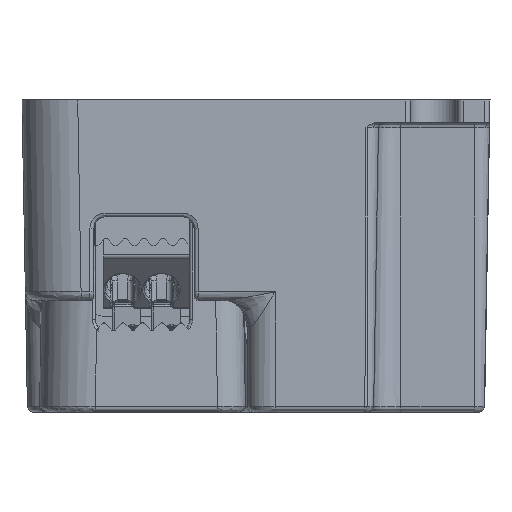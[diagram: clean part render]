
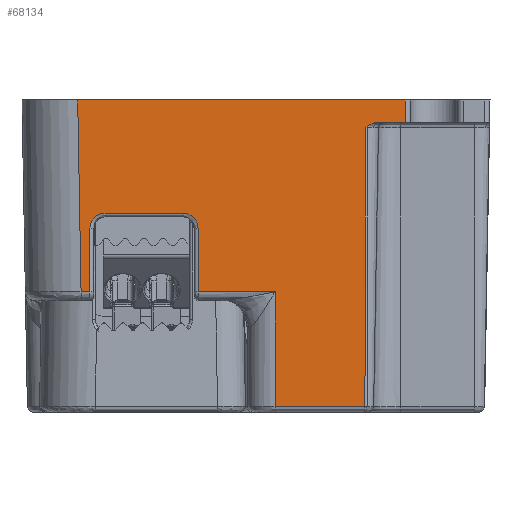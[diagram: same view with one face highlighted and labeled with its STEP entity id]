
A CAD part, left-side view. The second image highlights one B-rep face of the part: STEP entity #68134.
In plain terms, the highlighted planar face has unit normal (-1, 0, -0.018).
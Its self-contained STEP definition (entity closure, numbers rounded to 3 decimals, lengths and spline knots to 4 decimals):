
#587=ELLIPSE('',#73244,0.0532,0.0531);
#588=ELLIPSE('',#73245,0.0532,0.0531);
#1525=B_SPLINE_CURVE_WITH_KNOTS('',3,(#144257,#144258,#144259,#144260,#144261,
#144262),.UNSPECIFIED.,.F.,.F.,(4,2,4),(0.0867,0.156,
0.1811),.UNSPECIFIED.);
#1526=B_SPLINE_CURVE_WITH_KNOTS('',3,(#144283,#144284,#144285,#144286),
 .UNSPECIFIED.,.F.,.F.,(4,4),(0.,0.0202),.UNSPECIFIED.);
#1532=B_SPLINE_CURVE_WITH_KNOTS('',3,(#144526,#144527,#144528,#144529),
 .UNSPECIFIED.,.F.,.F.,(4,4),(-2.5021,0.),.UNSPECIFIED.);
#3598=PLANE('',#73243);
#6878=FACE_OUTER_BOUND('',#10444,.T.);
#10444=EDGE_LOOP('',(#58279,#58280,#58281,#58282,#58283,#58284,#58285,#58286,
#58287,#58288,#58289,#58290,#58291,#58292,#58293,#58294));
#17966=LINE('',#140312,#24684);
#18519=LINE('',#144057,#25237);
#18523=LINE('',#144067,#25241);
#18567=LINE('',#144541,#25285);
#18568=LINE('',#144545,#25286);
#18569=LINE('',#144546,#25287);
#18570=LINE('',#144548,#25288);
#18571=LINE('',#144552,#25289);
#18572=LINE('',#144556,#25290);
#18573=LINE('',#144558,#25291);
#18574=LINE('',#144559,#25292);
#24684=VECTOR('',#87245,0.3937);
#25237=VECTOR('',#88768,0.3937);
#25241=VECTOR('',#88778,0.3937);
#25285=VECTOR('',#89034,0.3937);
#25286=VECTOR('',#89039,0.3937);
#25287=VECTOR('',#89040,0.3937);
#25288=VECTOR('',#89041,0.3937);
#25289=VECTOR('',#89044,0.3937);
#25290=VECTOR('',#89047,0.3937);
#25291=VECTOR('',#89048,0.3937);
#25292=VECTOR('',#89049,0.3937);
#30895=VERTEX_POINT('',#140310);
#30896=VERTEX_POINT('',#140311);
#31118=VERTEX_POINT('',#141349);
#31516=VERTEX_POINT('',#144056);
#31519=VERTEX_POINT('',#144066);
#31552=VERTEX_POINT('',#144256);
#31554=VERTEX_POINT('',#144282);
#31599=VERTEX_POINT('',#144525);
#31600=VERTEX_POINT('',#144540);
#31601=VERTEX_POINT('',#144544);
#31602=VERTEX_POINT('',#144547);
#31603=VERTEX_POINT('',#144549);
#31604=VERTEX_POINT('',#144551);
#31605=VERTEX_POINT('',#144553);
#31606=VERTEX_POINT('',#144555);
#31607=VERTEX_POINT('',#144557);
#39636=EDGE_CURVE('',#30895,#30896,#17966,.F.);
#40554=EDGE_CURVE('',#30896,#31516,#18519,.T.);
#40559=EDGE_CURVE('',#31519,#31516,#18523,.T.);
#40613=EDGE_CURVE('',#31519,#31552,#1525,.T.);
#40616=EDGE_CURVE('',#31552,#31554,#1526,.T.);
#40686=EDGE_CURVE('',#31554,#31599,#1532,.T.);
#40691=EDGE_CURVE('',#31599,#31600,#18567,.T.);
#40693=EDGE_CURVE('',#31601,#30895,#18568,.T.);
#40694=EDGE_CURVE('',#31118,#31601,#18569,.T.);
#40695=EDGE_CURVE('',#31602,#31118,#18570,.T.);
#40696=EDGE_CURVE('',#31603,#31602,#587,.T.);
#40697=EDGE_CURVE('',#31604,#31603,#18571,.T.);
#40698=EDGE_CURVE('',#31605,#31604,#588,.T.);
#40699=EDGE_CURVE('',#31606,#31605,#18572,.T.);
#40700=EDGE_CURVE('',#31607,#31606,#18573,.T.);
#40701=EDGE_CURVE('',#31600,#31607,#18574,.T.);
#58279=ORIENTED_EDGE('',*,*,#40554,.F.);
#58280=ORIENTED_EDGE('',*,*,#39636,.F.);
#58281=ORIENTED_EDGE('',*,*,#40693,.F.);
#58282=ORIENTED_EDGE('',*,*,#40694,.F.);
#58283=ORIENTED_EDGE('',*,*,#40695,.F.);
#58284=ORIENTED_EDGE('',*,*,#40696,.F.);
#58285=ORIENTED_EDGE('',*,*,#40697,.F.);
#58286=ORIENTED_EDGE('',*,*,#40698,.F.);
#58287=ORIENTED_EDGE('',*,*,#40699,.F.);
#58288=ORIENTED_EDGE('',*,*,#40700,.F.);
#58289=ORIENTED_EDGE('',*,*,#40701,.F.);
#58290=ORIENTED_EDGE('',*,*,#40691,.F.);
#58291=ORIENTED_EDGE('',*,*,#40686,.F.);
#58292=ORIENTED_EDGE('',*,*,#40616,.F.);
#58293=ORIENTED_EDGE('',*,*,#40613,.F.);
#58294=ORIENTED_EDGE('',*,*,#40559,.T.);
#68134=ADVANCED_FACE('',(#6878),#3598,.T.);
#73243=AXIS2_PLACEMENT_3D('',#144543,#89037,#89038);
#73244=AXIS2_PLACEMENT_3D('',#144550,#89042,#89043);
#73245=AXIS2_PLACEMENT_3D('',#144554,#89045,#89046);
#87245=DIRECTION('',(0.,1.,0.));
#88768=DIRECTION('',(0.017,0.,-1.));
#88778=DIRECTION('',(0.,-1.,0.));
#89034=DIRECTION('',(0.,1.,0.));
#89037=DIRECTION('center_axis',(-1.,0.,-0.017));
#89038=DIRECTION('ref_axis',(0.,-1.,0.));
#89039=DIRECTION('',(-0.017,0.017,1.));
#89040=DIRECTION('',(0.,1.,0.));
#89041=DIRECTION('',(0.017,0.,-1.));
#89042=DIRECTION('center_axis',(-1.,0.,-0.017));
#89043=DIRECTION('ref_axis',(-0.017,0.,1.));
#89044=DIRECTION('',(0.,1.,0.));
#89045=DIRECTION('center_axis',(-1.,0.,-0.017));
#89046=DIRECTION('ref_axis',(-0.017,0.,1.));
#89047=DIRECTION('',(-0.017,0.,1.));
#89048=DIRECTION('',(0.,1.,0.));
#89049=DIRECTION('',(-0.017,0.,1.));
#140310=CARTESIAN_POINT('',(-2.4278,0.8312,0.5945));
#140311=CARTESIAN_POINT('',(-2.4278,-0.3255,0.5945));
#140312=CARTESIAN_POINT('',(-2.4278,0.605,0.5945));
#141349=CARTESIAN_POINT('',(-2.4159,0.7879,-0.0832));
#144056=CARTESIAN_POINT('',(-2.4264,-0.3255,0.5157));
#144057=CARTESIAN_POINT('',(-2.4174,-0.3255,0.0024));
#144066=CARTESIAN_POINT('',(-2.4264,-0.2281,0.5157));
#144067=CARTESIAN_POINT('',(-2.4264,0.2908,0.5157));
#144256=CARTESIAN_POINT('',(-2.4261,-0.192,0.502));
#144257=CARTESIAN_POINT('Ctrl Pts',(-2.4264,-0.2281,
0.5157));
#144258=CARTESIAN_POINT('Ctrl Pts',(-2.4264,-0.219,
0.5157));
#144259=CARTESIAN_POINT('Ctrl Pts',(-2.4263,-0.2087,
0.5124));
#144260=CARTESIAN_POINT('Ctrl Pts',(-2.4262,-0.1978,
0.5064));
#144261=CARTESIAN_POINT('Ctrl Pts',(-2.4262,-0.1945,
0.5043));
#144262=CARTESIAN_POINT('Ctrl Pts',(-2.4261,-0.192,
0.502));
#144282=CARTESIAN_POINT('',(-2.426,-0.1863,0.4964));
#144283=CARTESIAN_POINT('Ctrl Pts',(-2.4261,-0.192,
0.502));
#144284=CARTESIAN_POINT('Ctrl Pts',(-2.4261,-0.1901,
0.5002));
#144285=CARTESIAN_POINT('Ctrl Pts',(-2.4261,-0.1882,
0.4983));
#144286=CARTESIAN_POINT('Ctrl Pts',(-2.426,-0.1863,
0.4964));
#144525=CARTESIAN_POINT('',(-2.4088,-0.1835,-0.4885));
#144526=CARTESIAN_POINT('Ctrl Pts',(-2.426,-0.1863,
0.4964));
#144527=CARTESIAN_POINT('Ctrl Pts',(-2.4203,-0.1855,
0.1681));
#144528=CARTESIAN_POINT('Ctrl Pts',(-2.4146,-0.1846,
-0.1602));
#144529=CARTESIAN_POINT('Ctrl Pts',(-2.4088,-0.1835,
-0.4885));
#144540=CARTESIAN_POINT('',(-2.4088,0.134,-0.4885));
#144541=CARTESIAN_POINT('',(-2.4088,0.605,-0.4885));
#144543=CARTESIAN_POINT('Origin',(-2.4085,1.0088,-0.5079));
#144544=CARTESIAN_POINT('',(-2.4159,0.8194,-0.0832));
#144545=CARTESIAN_POINT('',(-2.4079,0.8113,-0.5446));
#144546=CARTESIAN_POINT('',(-2.4159,0.8958,-0.0832));
#144547=CARTESIAN_POINT('',(-2.4198,0.7879,0.1415));
#144548=CARTESIAN_POINT('',(-2.4145,0.7879,-0.1674));
#144549=CARTESIAN_POINT('',(-2.4208,0.7348,0.1946));
#144550=CARTESIAN_POINT('Origin',(-2.4198,0.7348,0.1415));
#144551=CARTESIAN_POINT('',(-2.4208,0.4592,0.1946));
#144552=CARTESIAN_POINT('',(-2.4208,0.7143,0.1946));
#144553=CARTESIAN_POINT('',(-2.4198,0.406,0.1415));
#144554=CARTESIAN_POINT('Origin',(-2.4198,0.4592,0.1415));
#144555=CARTESIAN_POINT('',(-2.4159,0.406,-0.0832));
#144556=CARTESIAN_POINT('',(-2.4119,0.406,-0.315));
#144557=CARTESIAN_POINT('',(-2.4159,0.134,-0.0832));
#144558=CARTESIAN_POINT('',(-2.4159,0.8958,-0.0832));
#144559=CARTESIAN_POINT('',(-2.4086,0.134,-0.5053));
